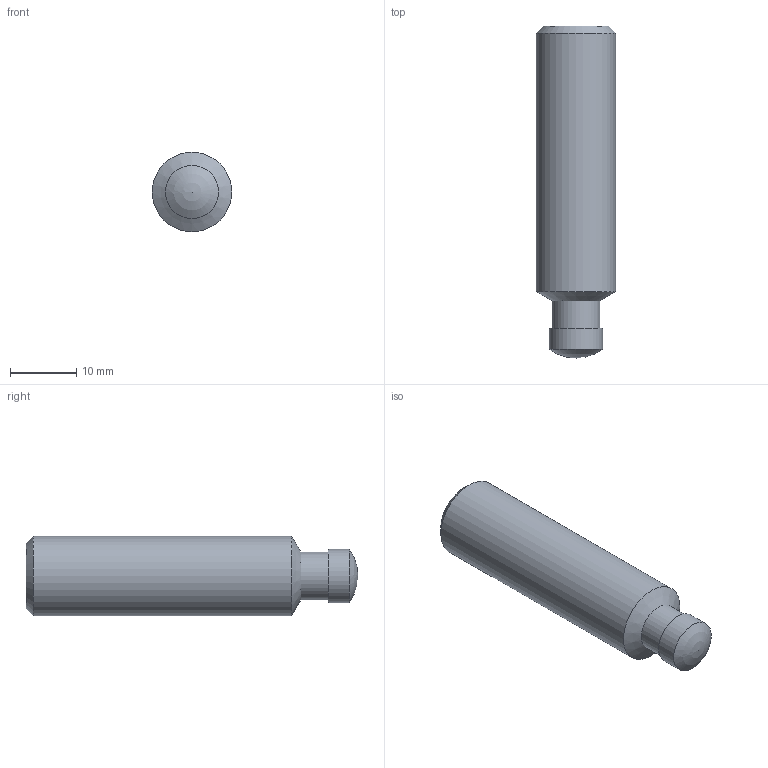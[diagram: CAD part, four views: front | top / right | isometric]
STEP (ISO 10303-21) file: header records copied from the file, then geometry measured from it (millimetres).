
FILE_DESCRIPTION( ( 'STEP AP203' ), '1' );
FILE_NAME( 'C:/Temp/Ganter_Step_05_03_2020/data/3_2/din6332/din6332_zb/Grub screw DIN 6332-M12-50-SKN-ZB.stp', '2020-03-13T05:16:35', ( 'License CC BY-ND 4.0' ), ( 'CADENAS' ), ' ', 'PARTsolutions', ' ' );
FILE_SCHEMA( ( 'CONFIG_CONTROL_DESIGN' ) );
Length unit declared in the file: millimetre
Products named in the file (1): _Grub screw DIN 6332-M12-50-SKN-ZB
Bounding box: 12 x 50 x 12 mm (x, y, z)
Volume: 4843 mm3; surface area: 2001 mm2
Topology: 1 solids, 1 shells, 15 faces, 33 edges, 21 vertices
Faces by surface type: plane 9, cylinder 3, cone 2, sphere 1
Full cylindrical faces by diameter (mm): 7.2 x1, 8 x1, 12 x1
Entity records: 410 total; most frequent: DIRECTION 64, CARTESIAN_POINT 61, ORIENTED_EDGE 50, EDGE_CURVE 25, AXIS2_PLACEMENT_3D 23, EDGE_LOOP 22, VERTEX_POINT 20, FACE_OUTER_BOUND 18
